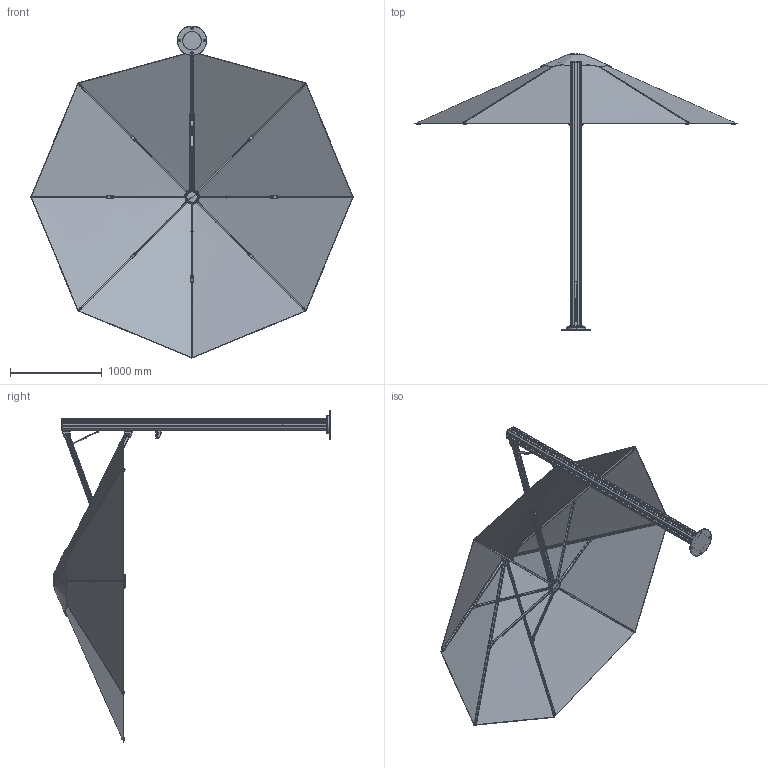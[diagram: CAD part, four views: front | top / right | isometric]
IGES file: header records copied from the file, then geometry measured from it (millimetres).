
Start section: SolidWorks IGES file using analytic representation for surfaces
Global section: file name: S:\RESEARCH and DEVELOPMENT\UnitySerenity Simple CAD Models\1. Export CAD\IGES Files\Unity 3.5M Octagonal Uno.IGS; native system: SolidWorks 2017; preprocessor: SolidWorks 2017; author: Peter; date: 200619.103552; units: millimetre
Bounding box: 3507.77 x 3017.95 x 3614.88 mm (x, y, z)
Surface area: 25470836.4 mm2 (no closed solid volume)
Topology: 0 solids, 0 shells, 1958 faces, 26527 edges, 26501 vertices
Faces by surface type: bspline 1000, revolution 958
